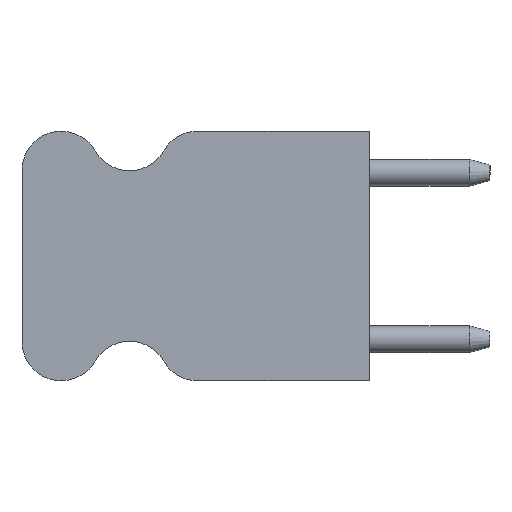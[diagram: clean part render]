
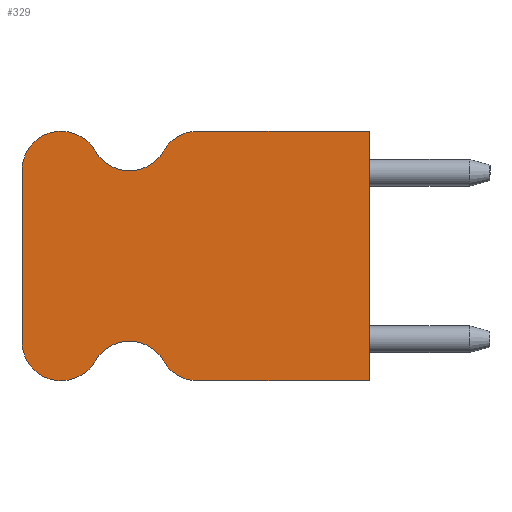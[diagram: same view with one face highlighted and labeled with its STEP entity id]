
A CAD part, front view. The second image highlights one B-rep face of the part: STEP entity #329.
In plain terms, the highlighted planar face has unit normal (0, -1, 0).
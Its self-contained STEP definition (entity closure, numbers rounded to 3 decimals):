
#18=LINE($,#505,#36);
#22=LINE($,#533,#40);
#23=LINE($,#536,#41);
#24=LINE($,#548,#42);
#36=VECTOR($,#401,6.528);
#40=VECTOR($,#433,9.525);
#41=VECTOR($,#436,6.553);
#42=VECTOR($,#449,6.553);
#55=PLANE($,#362);
#88=FACE_OUTER_BOUND($,#118,.T.);
#118=EDGE_LOOP($,(#243,#244,#245,#246,#247,#248,#249,#250,#251,#252));
#137=CIRCLE($,#363,1.499);
#138=CIRCLE($,#364,1.499);
#139=CIRCLE($,#365,1.499);
#140=CIRCLE($,#366,1.499);
#141=CIRCLE($,#367,1.499);
#142=CIRCLE($,#368,1.499);
#152=VERTEX_POINT($,#498);
#155=VERTEX_POINT($,#503);
#162=VERTEX_POINT($,#526);
#165=VERTEX_POINT($,#531);
#166=VERTEX_POINT($,#535);
#167=VERTEX_POINT($,#537);
#168=VERTEX_POINT($,#539);
#169=VERTEX_POINT($,#542);
#170=VERTEX_POINT($,#544);
#171=VERTEX_POINT($,#546);
#184=EDGE_CURVE($,#152,#155,#18,.T.);
#194=EDGE_CURVE($,#162,#165,#22,.T.);
#195=EDGE_CURVE($,#165,#166,#23,.T.);
#196=EDGE_CURVE($,#166,#167,#137,.T.);
#197=EDGE_CURVE($,#167,#168,#138,.T.);
#198=EDGE_CURVE($,#168,#152,#139,.T.);
#199=EDGE_CURVE($,#155,#169,#140,.T.);
#200=EDGE_CURVE($,#169,#170,#141,.T.);
#201=EDGE_CURVE($,#170,#171,#142,.T.);
#202=EDGE_CURVE($,#171,#162,#24,.T.);
#243=ORIENTED_EDGE($,*,*,#195,.T.);
#244=ORIENTED_EDGE($,*,*,#196,.T.);
#245=ORIENTED_EDGE($,*,*,#197,.T.);
#246=ORIENTED_EDGE($,*,*,#198,.T.);
#247=ORIENTED_EDGE($,*,*,#184,.T.);
#248=ORIENTED_EDGE($,*,*,#199,.T.);
#249=ORIENTED_EDGE($,*,*,#200,.T.);
#250=ORIENTED_EDGE($,*,*,#201,.T.);
#251=ORIENTED_EDGE($,*,*,#202,.T.);
#252=ORIENTED_EDGE($,*,*,#194,.T.);
#329=ADVANCED_FACE($,(#88),#55,.F.);
#362=AXIS2_PLACEMENT_3D($,#534,#434,#435);
#363=AXIS2_PLACEMENT_3D($,#538,#437,#438);
#364=AXIS2_PLACEMENT_3D($,#540,#439,#440);
#365=AXIS2_PLACEMENT_3D($,#541,#441,#442);
#366=AXIS2_PLACEMENT_3D($,#543,#443,#444);
#367=AXIS2_PLACEMENT_3D($,#545,#445,#446);
#368=AXIS2_PLACEMENT_3D($,#547,#447,#448);
#401=DIRECTION($,(0.,0.,-1.));
#433=DIRECTION($,(0.,0.,1.));
#434=DIRECTION('center_axis',(0.,1.,0.));
#435=DIRECTION('ref_axis',(1.,0.,0.));
#436=DIRECTION($,(-1.,0.,0.));
#437=DIRECTION('center_axis',(0.,-1.,0.));
#438=DIRECTION('ref_axis',(-0.869,0.,0.495));
#439=DIRECTION('center_axis',(0.,1.,0.));
#440=DIRECTION('ref_axis',(-0.869,0.,0.495));
#441=DIRECTION('center_axis',(0.,-1.,0.));
#442=DIRECTION('ref_axis',(-1.,0.,0.));
#443=DIRECTION('center_axis',(0.,-1.,0.));
#444=DIRECTION('ref_axis',(0.869,0.,-0.495));
#445=DIRECTION('center_axis',(0.,1.,0.));
#446=DIRECTION('ref_axis',(0.869,0.,-0.495));
#447=DIRECTION('center_axis',(0.,-1.,0.));
#448=DIRECTION('ref_axis',(0.,0.,
-1.));
#449=DIRECTION($,(1.,0.,0.));
#498=CARTESIAN_POINT('',(-16.707,-3.175,3.264));
#503=CARTESIAN_POINT('',(-16.707,-3.175,-3.264));
#505=CARTESIAN_POINT($,(-16.707,-3.175,-3.264));
#526=CARTESIAN_POINT('',(-3.448,-3.175,-4.763));
#531=CARTESIAN_POINT('',(-3.448,-3.175,4.762));
#533=CARTESIAN_POINT($,(-3.448,-3.175,4.762));
#534=CARTESIAN_POINT('Origin',(-9.641,-3.175,0.));
#535=CARTESIAN_POINT('',(-10.001,-3.175,4.763));
#536=CARTESIAN_POINT($,(-10.001,-3.175,4.763));
#537=CARTESIAN_POINT('',(-11.303,-3.175,4.006));
#538=CARTESIAN_POINT('Origin',(-10.001,-3.175,3.264));
#539=CARTESIAN_POINT('',(-13.907,-3.175,4.006));
#540=CARTESIAN_POINT('Origin',(-12.605,-3.175,4.749));
#541=CARTESIAN_POINT('Origin',(-15.208,-3.175,3.264));
#542=CARTESIAN_POINT('',(-13.907,-3.175,-4.006));
#543=CARTESIAN_POINT('Origin',(-15.208,-3.175,-3.264));
#544=CARTESIAN_POINT('',(-11.303,-3.175,-4.006));
#545=CARTESIAN_POINT('Origin',(-12.605,-3.175,-4.749));
#546=CARTESIAN_POINT('',(-10.001,-3.175,-4.763));
#547=CARTESIAN_POINT('Origin',(-10.001,-3.175,-3.264));
#548=CARTESIAN_POINT($,(-3.448,-3.175,-4.763));
